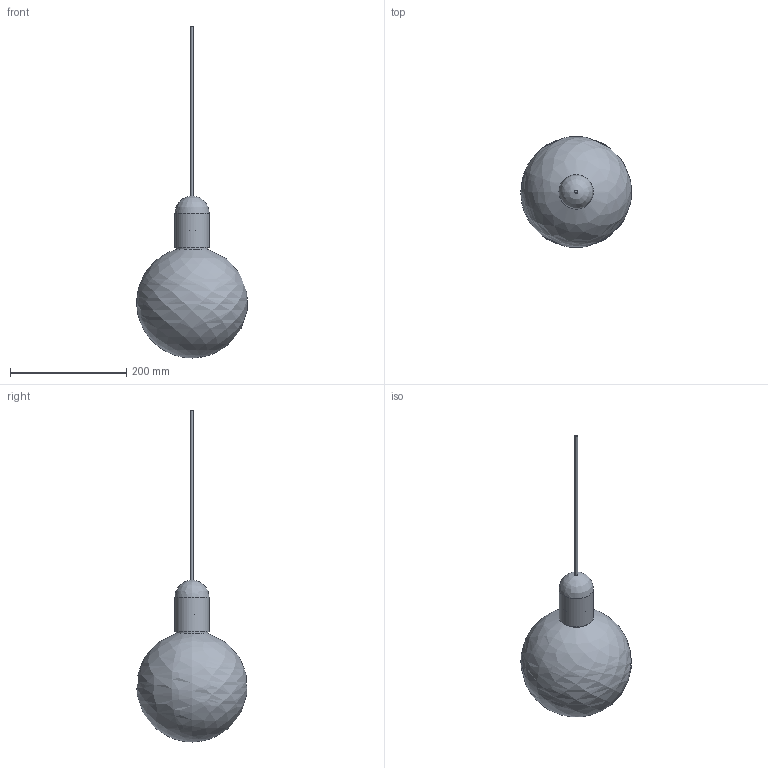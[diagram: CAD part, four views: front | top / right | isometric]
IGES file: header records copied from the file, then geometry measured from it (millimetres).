
Global section: file name: Niche - Solitaire Petite - Placebo Pendant; native system: unknown; preprocessor: unknown; author: unknown; organization: unknown; date: 20250109.104733; units: inch
Bounding box: 189.58 x 189.02 x 570.23 mm (x, y, z)
Volume: 289731.3 mm3; surface area: 275117.2 mm2
Topology: 5 solids, 5 shells, 98 faces, 269 edges, 180 vertices
Faces by surface type: bspline 98
